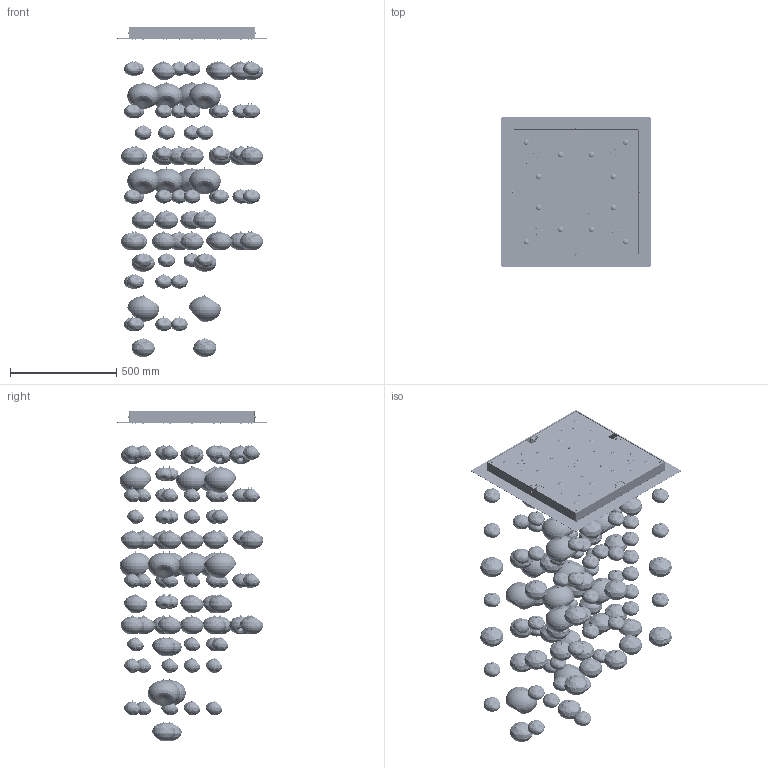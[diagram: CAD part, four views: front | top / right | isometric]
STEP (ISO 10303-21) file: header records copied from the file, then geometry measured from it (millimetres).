
FILE_DESCRIPTION(/* description */ (''),/* implementation_level */ '2;1');
FILE_NAME(/* name */ 'ETHER SQUARE D 150',/* time_stamp */ '2025-09-04T16:38:41+02:00',/* author */ (''),/* organization */ (''),/* preprocessor_version */ 'ST-DEVELOPER v16.5',/* originating_system */ 'Rhino 7.38',/* authorisation */ '');
FILE_SCHEMA (('CONFIG_CONTROL_DESIGN'));
Products named in the file (50): Document; DADO M4 DIN934 ZB; RONDELLA DENTELLATA ESTERNA M4; Z0033; Z0008; K011; RONDELLA M4 D.12 H1 ZINCATA DIN9021; VITE TCEI M4X6 UNI5931 ZB; X0072; Z0009; 146C006; VITE TCEI M4X12 UNI5931 ZB; 146C010-G-927; Z0022; C026-927; C005; C008; B005; Vite TSP CR M3x8 zincata; VITE TC AUTOFIL M2,9X9,5 ZN UNI6954AB DIN7981C; K001; R001-36; 146C005; RONDELLA Ø7 H2 F.Ø3.2 STEAB 5021-2-118; VITE AUTOFIL. Ø2.9X6.5 TCC UNI 6954 AB; VITE TCEI M3X25 UNI5931 ZB; E007-0,5A; W037; Z017-P; W042; W044; 146C009; 146C009-1; 146C009-2; X0057-008; 146C003; 146C021-B; 146C016-F; 146C014; 146C013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
Assembly tree (246 placements, depth 3):
  Document
    DADO M4 DIN934 ZB  x4
    RONDELLA DENTELLATA ESTERNA M4  x4
    Z0033  x4
      Z0008
      K011
    RONDELLA M4 D.12 H1 ZINCATA DIN9021  x4
    VITE TCEI M4X6 UNI5931 ZB  x4
    X0072  x22
    Z0009  x22
    146C006  x22
    VITE TCEI M4X12 UNI5931 ZB  x4
    146C010-G-927  x4
      Z0022
      C026-927
      C005
      C008
      B005
      Vite TSP CR M3x8 zincata
      VITE TC AUTOFIL M2,9X9,5 ZN UNI6954AB DIN7981C
      K001
      R001-36
      146C005
      RONDELLA Ø7 H2 F.Ø3.2 STEAB 5021-2-118
      VITE AUTOFIL. Ø2.9X6.5 TCC UNI 6954 AB
      VITE TCEI M3X25 UNI5931 ZB
      E007-0,5A
      W037
      Z017-P
      W042
      W044
    146C009
      146C009-1
      146C009-2
      X0057-008  x5
    146C003
    146C021-B  x5
      146C016-F
      146C014
      146C013
      SEEGER N.4 ZINCATO minetti
      146C011
    146C021-A  x2
      146C016-E
      146C015
      146C013
      146C014
      SEEGER N.4 ZINCATO minetti
      146C011
    146C021-D  x5
      146C016-H
      146C014
      146C013
      146C011
      SEEGER N.4 ZINCATO minetti
    146C021-E  x4
      146C016-G
      146C015
      146C014
      146C013
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Bounding box: 700 x 700 x 1549.12 mm (x, y, z)
Volume: 5749862.1 mm3; surface area: 8584689.6 mm2
Topology: 606 solids, 646 shells, 20480 faces, 52892 edges, 34646 vertices
Faces by surface type: plane 9897, cylinder 6453, bspline 4130
Full cylindrical faces by diameter (mm): 0.65 x5, 0.88 x8, 1 x129, 1.15 x16, 1.25 x4, 1.5 x16, 2 x44, 2.25 x8, 2.3 x16, 2.459 x19, 2.8 x8, 2.9 x28, 3 x152, 3.1 x8, 3.2 x12, 3.242 x12, 3.3 x30, 3.5 x22, 4 x43, 4.3 x12, 4.9 x4, 5 x8, 5.5 x21, 5.6 x8, 5.8 x4, 6 x40, 6.5 x56, 6.6 x8, 7 x30, 8 x44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
Entity records: 366699 total; most frequent: CARTESIAN_POINT 296640, ORIENTED_EDGE 16133, EDGE_CURVE 8068, VERTEX_POINT 5320, B_SPLINE_CURVE_WITH_KNOTS 5062, EDGE_LOOP 3516, DIRECTION 3050, ADVANCED_FACE 3014
